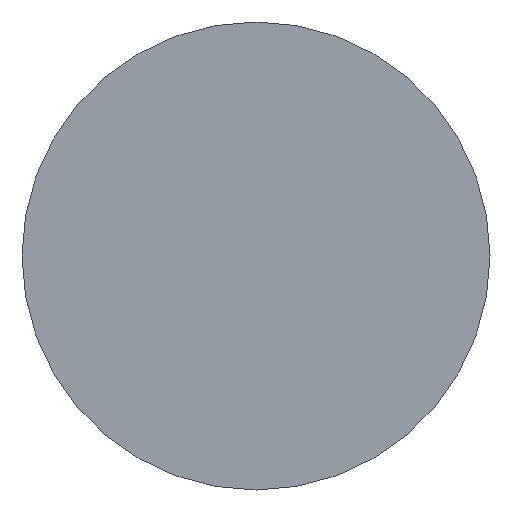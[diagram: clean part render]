
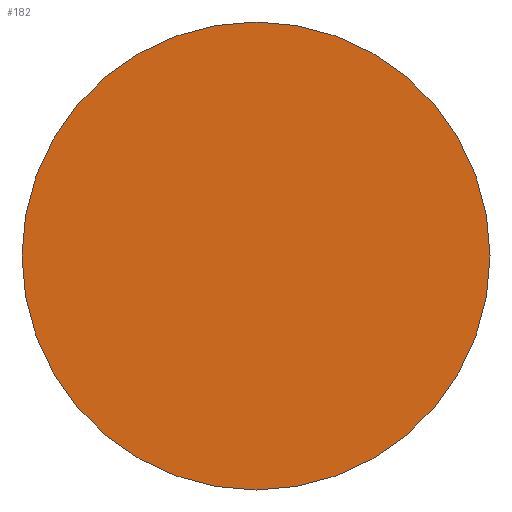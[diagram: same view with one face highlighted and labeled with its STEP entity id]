
A CAD part, left-side view. The second image highlights one B-rep face of the part: STEP entity #182.
In plain terms, the highlighted planar face has unit normal (-1, 0, 0).
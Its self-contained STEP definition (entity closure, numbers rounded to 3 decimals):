
#1 = VERTEX_POINT ( 'NONE', #97 ) ;
#7 = DIRECTION ( 'NONE',  ( 1., 0., 0. ) ) ;
#10 = AXIS2_PLACEMENT_3D ( 'NONE', #40, #114, #243 ) ;
#13 = DIRECTION ( 'NONE',  ( 0., 1., 0. ) ) ;
#38 = EDGE_CURVE ( 'NONE', #51, #1, #249, .T. ) ;
#40 = CARTESIAN_POINT ( 'NONE',  ( 0., 0., 0. ) ) ;
#51 = VERTEX_POINT ( 'NONE', #178 ) ;
#52 = FACE_OUTER_BOUND ( 'NONE', #77, .T. ) ;
#67 = PLANE ( 'NONE',  #197 ) ;
#77 = EDGE_LOOP ( 'NONE', ( #271, #134 ) ) ;
#87 = DIRECTION ( 'NONE',  ( -1., 0., 0. ) ) ;
#97 = CARTESIAN_POINT ( 'NONE',  ( 0., -9., 0. ) ) ;
#114 = DIRECTION ( 'NONE',  ( 1., 0., 0. ) ) ;
#120 = CIRCLE ( 'NONE', #10, 9. ) ;
#134 = ORIENTED_EDGE ( 'NONE', *, *, #154, .F. ) ;
#154 = EDGE_CURVE ( 'NONE', #1, #51, #120, .T. ) ;
#178 = CARTESIAN_POINT ( 'NONE',  ( 0., 9., 0. ) ) ;
#182 = ADVANCED_FACE ( 'NONE', ( #52 ), #67, .T. ) ;
#187 = CARTESIAN_POINT ( 'NONE',  ( 0., 0., 0. ) ) ;
#197 = AXIS2_PLACEMENT_3D ( 'NONE', #224, #87, #258 ) ;
#217 = AXIS2_PLACEMENT_3D ( 'NONE', #187, #7, #13 ) ;
#224 = CARTESIAN_POINT ( 'NONE',  ( 0., 0., 0. ) ) ;
#243 = DIRECTION ( 'NONE',  ( 0., 1., 0. ) ) ;
#249 = CIRCLE ( 'NONE', #217, 9. ) ;
#258 = DIRECTION ( 'NONE',  ( 0., -1., 0. ) ) ;
#271 = ORIENTED_EDGE ( 'NONE', *, *, #38, .F. ) ;
